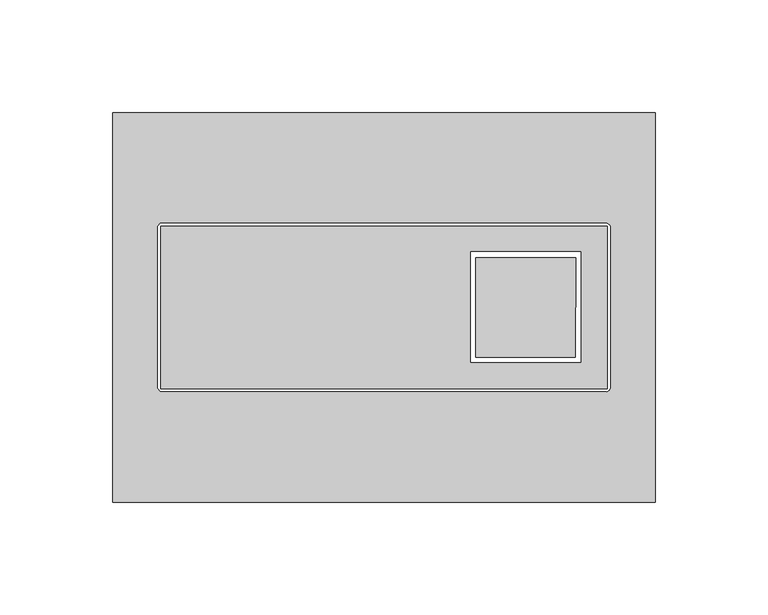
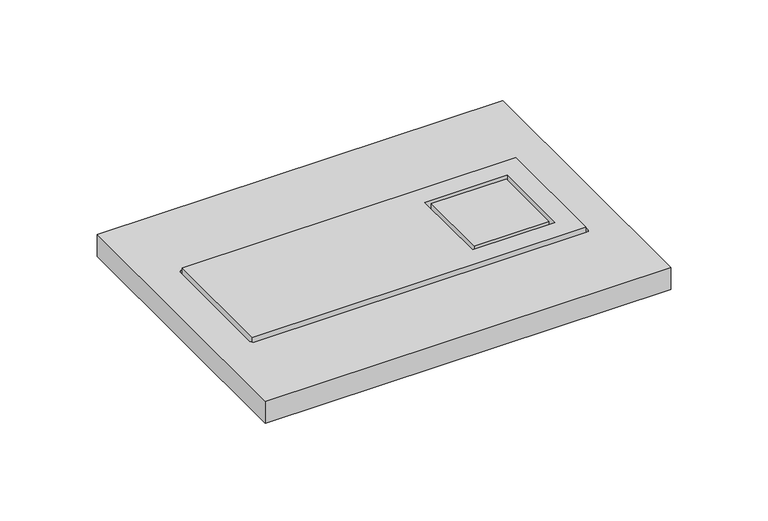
"""IFC4 building model written with IfcOpenShell, lengths in millimetres: flow terminal geometry, Ruby : RUBY GLASS GREEN."""

from ifc_helpers import new_model, si_unit, origin, origin_with_axes, place, context, project, spatial, polyline, outline, extrude, source, transform, mapped, element, save


def flow_terminal_f2a16586(model_context):
    return source(origin(), model_context, "Body", "SweptSolid", [
        extrude(outline(polyline([(99.1500005, 36.1174011), (99.1500005, -36.1501537), (-99.1500005, -36.0021619), (-99.1500005, 35.9694138), (99.1500005, 36.1174011)]), holes=[polyline([(87.4569982, 24.6340001), (38.576002, 24.6340001), (38.576002, -24.3710006), (87.4569982, -24.3710006), (87.4569982, 24.6340001)])]), origin_with_axes(), (0.0, 0.0, 1.0), 16.0334424),
        extrude(outline(polyline([(40.8449996, -22.0859997), (40.774001, 22.0130005), (85.2260025, 22.0130005), (85.0129977, -22.2260007), (40.8449996, -22.0859997)])), origin_with_axes(), (0.0, 0.0, 1.0), 16.0334424),
        extrude(outline(polyline([(-120.5169988, 86.5169984), (120.5169988, 86.5169984), (120.5169988, -86.5169984), (-120.5169988, -86.5169984), (-120.5169988, 86.5169984)]), holes=[polyline([(-100.4500005, 35.9449989), (-100.4500005, -35.9450012), (-99.367999, -37.3019996), (98.9449961, -37.4500011), (100.0639958, -36.7470007), (100.4500005, -35.9450012), (100.4500005, 35.9449989), (100.0639958, 36.7469985), (98.9449961, 37.4499988), (-99.367999, 37.3020018), (-100.4500005, 35.9449989)])]), origin_with_axes(), (0.0, 0.0, 1.0), 13.8962262),
    ])


if __name__ == "__main__":
    model = new_model("IFC4")
    model_context = context("Model", 3, world=origin())
    ifc_project = project(units=[si_unit("LENGTHUNIT", "METRE", prefix="MILLI")], contexts=[model_context])
    site = spatial("IfcSite", under=ifc_project)
    building = spatial("IfcBuilding", under=site)
    placement = place(None, origin())
    flow_terminal_shape = flow_terminal_f2a16586(model_context)
    element("IfcFlowTerminal", 1, ObjectType="Ruby : RUBY GLASS GREEN", at=placement, inside=building, context=model_context, shape_type="MappedRepresentation", body=[
        mapped(flow_terminal_shape, transform((0.0, 0.0, 0.0), x_axis=(1.0, 0.0, 0.0), y_axis=(0.0, 1.0, 0.0), z_axis=(0.0, 0.0, 1.0))),
    ])
    save(model, "model.ifc")
